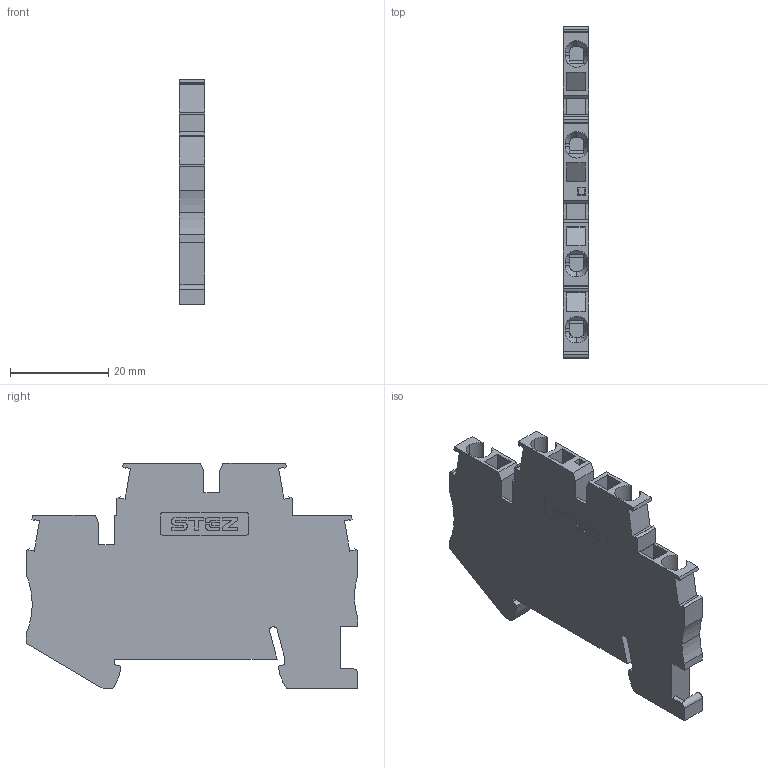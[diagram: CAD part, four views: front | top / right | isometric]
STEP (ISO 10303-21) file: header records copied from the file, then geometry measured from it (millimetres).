
FILE_DESCRIPTION(('TFLEX Exchange Step'),'2;1');
FILE_NAME('10100010_KH3_2,5-2Y.stp', '2023-10-02T14:47:01+03:00',('apanin'),('Unknown organisation'),'TFLEX Exchange 2023.0','T-FLEX CAD','Unknown authorisation');
FILE_SCHEMA( ('AUTOMOTIVE_DESIGN { 1 0 10303 214 1 1 1 1 }') );
Length unit declared in the file: millimetre
Products named in the file (1): Тело_1 - 1:1
Bounding box: 5.15 x 67.55 x 45.85 mm (x, y, z)
Volume: 10419.8 mm3; surface area: 7650.1 mm2
Topology: 1 solids, 1 shells, 432 faces, 1238 edges, 820 vertices
Faces by surface type: plane 218, cylinder 198, cone 16
Entity records: 15295 total; most frequent: CARTESIAN_POINT 3744, ORIENTED_EDGE 2476, DIRECTION 2408, EDGE_CURVE 1238, AXIS2_PLACEMENT_3D 826, VERTEX_POINT 820, VECTOR 756, LINE 756
